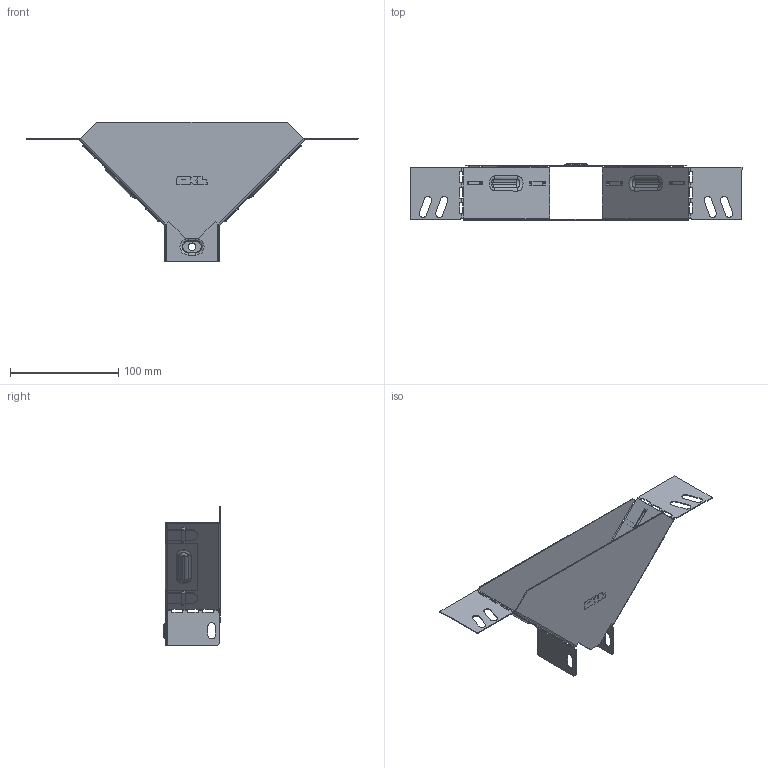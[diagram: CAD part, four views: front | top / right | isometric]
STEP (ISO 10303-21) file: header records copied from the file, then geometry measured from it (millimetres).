
FILE_DESCRIPTION (( 'STEP AP214' ), '1' );
FILE_NAME ('tn505008_捘.STEP', '2019-06-10T07:58:08', ( '砐錪賧瘔蠈錪 Windows' ), ( '' ), 'SwSTEP 2.0', 'SolidWorks 2018', '' );
FILE_SCHEMA (( 'AUTOMOTIVE_DESIGN' ));
Length unit declared in the file: millimetre
Products named in the file (1): tn505008_捘
Bounding box: 306.02 x 52.4 x 129 mm (x, y, z)
Volume: 38854 mm3; surface area: 99400.3 mm2
Topology: 2 solids, 2 shells, 554 faces, 1544 edges, 984 vertices
Faces by surface type: plane 344, cylinder 152, torus 40, bspline 18
Entity records: 18547 total; most frequent: CARTESIAN_POINT 4041, ORIENTED_EDGE 3088, DIRECTION 2946, EDGE_CURVE 1544, VECTOR 1144, LINE 1144, VERTEX_POINT 984, AXIS2_PLACEMENT_3D 901
